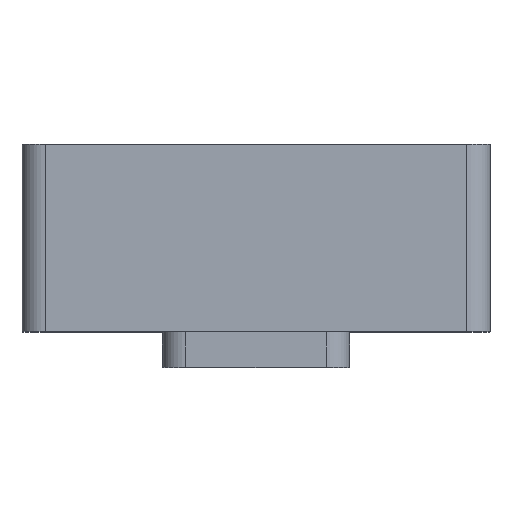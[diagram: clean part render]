
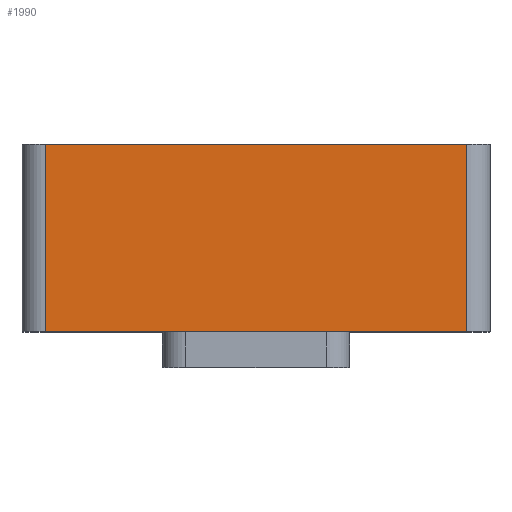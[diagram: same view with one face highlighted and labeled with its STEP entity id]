
A CAD part, top view. The second image highlights one B-rep face of the part: STEP entity #1990.
In plain terms, the highlighted planar face has unit normal (0, 0, 1).
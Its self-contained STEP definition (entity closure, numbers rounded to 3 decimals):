
#19 = EDGE_CURVE ( 'NONE', #1783, #1393, #2163, .T. ) ;
#152 = DIRECTION ( 'NONE',  ( 0., -1., 0. ) ) ;
#202 = DIRECTION ( 'NONE',  ( -1., 0., 0. ) ) ;
#278 = VECTOR ( 'NONE', #1913, 1000. ) ;
#303 = FACE_OUTER_BOUND ( 'NONE', #352, .T. ) ;
#339 = DIRECTION ( 'NONE',  ( 0., 0., 1. ) ) ;
#352 = EDGE_LOOP ( 'NONE', ( #619, #1584, #969, #1422 ) ) ;
#490 = DIRECTION ( 'NONE',  ( 0., -1., 0. ) ) ;
#536 = AXIS2_PLACEMENT_3D ( 'NONE', #997, #339, #1337 ) ;
#548 = VECTOR ( 'NONE', #152, 1000. ) ;
#560 = CARTESIAN_POINT ( 'NONE',  ( -57.15, 44.45, 63.5 ) ) ;
#576 = CARTESIAN_POINT ( 'NONE',  ( 57.15, -6.35, 63.5 ) ) ;
#619 = ORIENTED_EDGE ( 'NONE', *, *, #1193, .T. ) ;
#703 = CARTESIAN_POINT ( 'NONE',  ( 0., 44.45, 63.5 ) ) ;
#717 = CARTESIAN_POINT ( 'NONE',  ( -57.15, -6.35, 63.5 ) ) ;
#764 = CARTESIAN_POINT ( 'NONE',  ( 57.15, 44.45, 63.5 ) ) ;
#925 = EDGE_CURVE ( 'NONE', #1783, #1729, #1200, .T. ) ;
#969 = ORIENTED_EDGE ( 'NONE', *, *, #19, .F. ) ;
#997 = CARTESIAN_POINT ( 'NONE',  ( 0., 44.45, 63.5 ) ) ;
#1167 = CARTESIAN_POINT ( 'NONE',  ( 57.15, 44.45, 63.5 ) ) ;
#1169 = CARTESIAN_POINT ( 'NONE',  ( -57.15, 44.45, 63.5 ) ) ;
#1193 = EDGE_CURVE ( 'NONE', #1729, #1680, #1996, .T. ) ;
#1199 = PLANE ( 'NONE',  #536 ) ;
#1200 = LINE ( 'NONE', #703, #278 ) ;
#1231 = LINE ( 'NONE', #1763, #1957 ) ;
#1303 = VECTOR ( 'NONE', #490, 1000. ) ;
#1337 = DIRECTION ( 'NONE',  ( 1., 0., 0. ) ) ;
#1393 = VERTEX_POINT ( 'NONE', #576 ) ;
#1422 = ORIENTED_EDGE ( 'NONE', *, *, #925, .T. ) ;
#1584 = ORIENTED_EDGE ( 'NONE', *, *, #1712, .F. ) ;
#1680 = VERTEX_POINT ( 'NONE', #717 ) ;
#1712 = EDGE_CURVE ( 'NONE', #1393, #1680, #1231, .T. ) ;
#1729 = VERTEX_POINT ( 'NONE', #560 ) ;
#1763 = CARTESIAN_POINT ( 'NONE',  ( 0., -6.35, 63.5 ) ) ;
#1783 = VERTEX_POINT ( 'NONE', #764 ) ;
#1913 = DIRECTION ( 'NONE',  ( -1., 0., 0. ) ) ;
#1957 = VECTOR ( 'NONE', #202, 1000. ) ;
#1990 = ADVANCED_FACE ( 'NONE', ( #303 ), #1199, .T. ) ;
#1996 = LINE ( 'NONE', #1169, #548 ) ;
#2163 = LINE ( 'NONE', #1167, #1303 ) ;
